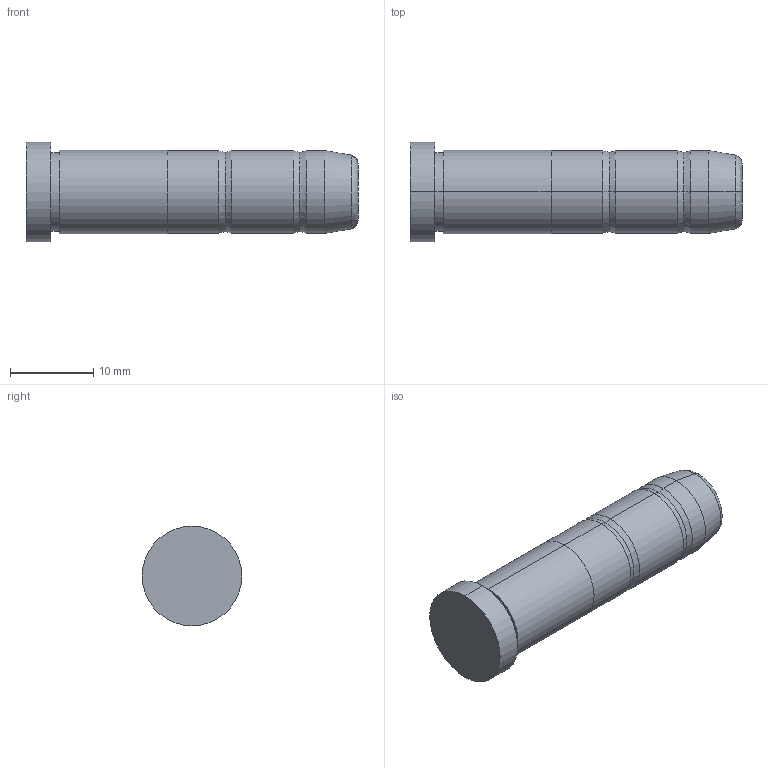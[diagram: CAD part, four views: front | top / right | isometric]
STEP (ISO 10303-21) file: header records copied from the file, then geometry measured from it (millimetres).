
FILE_DESCRIPTION( ( 'STEP AP203' ), '1' );
FILE_NAME( 'C:/Projects/D01 - 10x40.step', '2002-12-31T23:27:39', ( ' ' ), ( ' ' ), 'XStep 1.0', ' ', ' ' );
FILE_SCHEMA( ( 'CONFIG_CONTROL_DESIGN' ) );
Length unit declared in the file: metre
Products named in the file (1): 1
Bounding box: 40 x 12 x 12 mm (x, y, z)
Volume: 3182.2 mm3; surface area: 1482.7 mm2
Topology: 1 solids, 1 shells, 29 faces, 56 edges, 32 vertices
Faces by surface type: bspline 15, revolution 14
Entity records: 917 total; most frequent: CARTESIAN_POINT 341, ORIENTED_EDGE 112, DIRECTION 94, EDGE_CURVE 56, AXIS2_PLACEMENT_3D 33, EDGE_LOOP 32, VERTEX_POINT 32, CIRCLE 32
